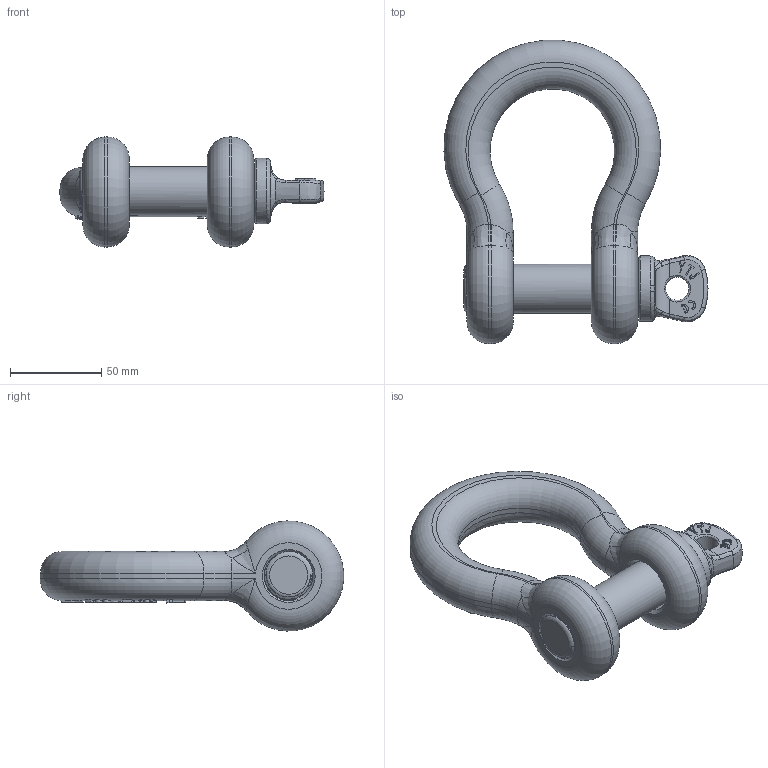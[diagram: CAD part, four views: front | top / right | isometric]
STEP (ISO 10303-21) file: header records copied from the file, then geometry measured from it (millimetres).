
FILE_DESCRIPTION(/* description */ (''),/* implementation_level */ '2;1');
FILE_NAME(/* name */ 'G-209A-1.stp',/* time_stamp */ '2025-04-08T08:13:01+08:00',/* author */ (''),/* organization */ (''),/* preprocessor_version */ 'ST-DEVELOPER v16',/* originating_system */ 'SIEMENS PLM Software NX 10.0',/* authorisation */ '');
FILE_SCHEMA (('AP203_CONFIGURATION_CONTROLLED_3D_DESIGN_OF_MECHANICAL_PARTS_AND_ASSEMBLIES_MIM_LF { 1 0 10303 403 2 1 2}'));
Length unit declared in the file: millimetre
Products named in the file (1): Admi20FC52B4dhnf
Bounding box: 144.97 x 166.44 x 60.45 mm (x, y, z)
Volume: 309894.2 mm3; surface area: 54907.5 mm2
Topology: 2 solids, 2 shells, 562 faces, 1554 edges, 1002 vertices
Faces by surface type: plane 244, extrusion 144, cylinder 70, bspline 54, torus 37, cone 8, sphere 5
Full cylindrical faces by diameter (mm): 12.7 x1, 27 x7, 29 x1, 36 x1
Entity records: 24085 total; most frequent: CARTESIAN_POINT 11580, ORIENTED_EDGE 2994, DIRECTION 1842, EDGE_CURVE 1497, VERTEX_POINT 975, B_SPLINE_CURVE_WITH_KNOTS 904, VECTOR 630, AXIS2_PLACEMENT_3D 606
